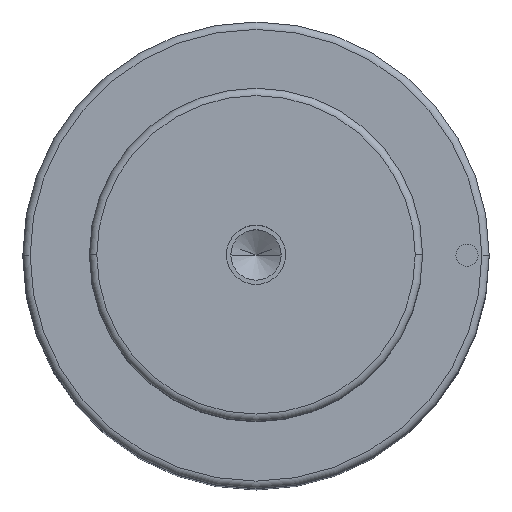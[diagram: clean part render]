
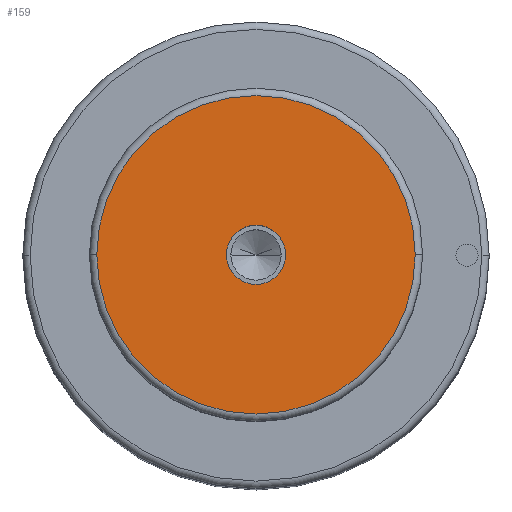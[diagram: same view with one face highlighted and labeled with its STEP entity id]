
A CAD part, top view. The second image highlights one B-rep face of the part: STEP entity #159.
In plain terms, the highlighted planar face has unit normal (0, 0, 1).
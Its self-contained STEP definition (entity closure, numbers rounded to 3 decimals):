
#104=PLANE('',#795);
#113=FACE_BOUND('',#259,.T.);
#114=FACE_BOUND('',#260,.T.);
#159=ADVANCED_FACE('',(#113,#114),#104,.T.);
#259=EDGE_LOOP('',(#395,#396));
#260=EDGE_LOOP('',(#397,#398));
#315=CIRCLE('',#789,4.);
#316=CIRCLE('',#791,4.);
#317=CIRCLE('',#793,21.5);
#318=CIRCLE('',#794,21.5);
#395=ORIENTED_EDGE('',*,*,#629,.F.);
#396=ORIENTED_EDGE('',*,*,#630,.F.);
#397=ORIENTED_EDGE('',*,*,#628,.T.);
#398=ORIENTED_EDGE('',*,*,#626,.T.);
#564=VERTEX_POINT('',#1162);
#565=VERTEX_POINT('',#1164);
#566=VERTEX_POINT('',#1170);
#567=VERTEX_POINT('',#1171);
#626=EDGE_CURVE('',#565,#564,#315,.T.);
#628=EDGE_CURVE('',#564,#565,#316,.T.);
#629=EDGE_CURVE('',#566,#567,#317,.T.);
#630=EDGE_CURVE('',#567,#566,#318,.T.);
#789=AXIS2_PLACEMENT_3D('',#1163,#915,#916);
#791=AXIS2_PLACEMENT_3D('',#1167,#920,#921);
#793=AXIS2_PLACEMENT_3D('',#1169,#924,#925);
#794=AXIS2_PLACEMENT_3D('',#1172,#926,#927);
#795=AXIS2_PLACEMENT_3D('',#1173,#928,#929);
#915=DIRECTION('',(0.,0.,-1.));
#916=DIRECTION('',(0.,1.,0.));
#920=DIRECTION('',(0.,0.,-1.));
#921=DIRECTION('',(0.,-1.,0.));
#924=DIRECTION('',(0.,0.,-1.));
#925=DIRECTION('',(0.,1.,0.));
#926=DIRECTION('',(0.,0.,-1.));
#927=DIRECTION('',(0.,-1.,0.));
#928=DIRECTION('',(0.,0.,1.));
#929=DIRECTION('',(0.,-1.,0.));
#1162=CARTESIAN_POINT('',(-4.,0.,150.));
#1163=CARTESIAN_POINT('',(0.,0.,150.));
#1164=CARTESIAN_POINT('',(4.,0.,150.));
#1167=CARTESIAN_POINT('',(0.,0.,150.));
#1169=CARTESIAN_POINT('',(0.,0.,150.));
#1170=CARTESIAN_POINT('',(21.5,0.,150.));
#1171=CARTESIAN_POINT('',(-21.5,0.,150.));
#1172=CARTESIAN_POINT('',(0.,0.,150.));
#1173=CARTESIAN_POINT('',(0.,0.,150.));
